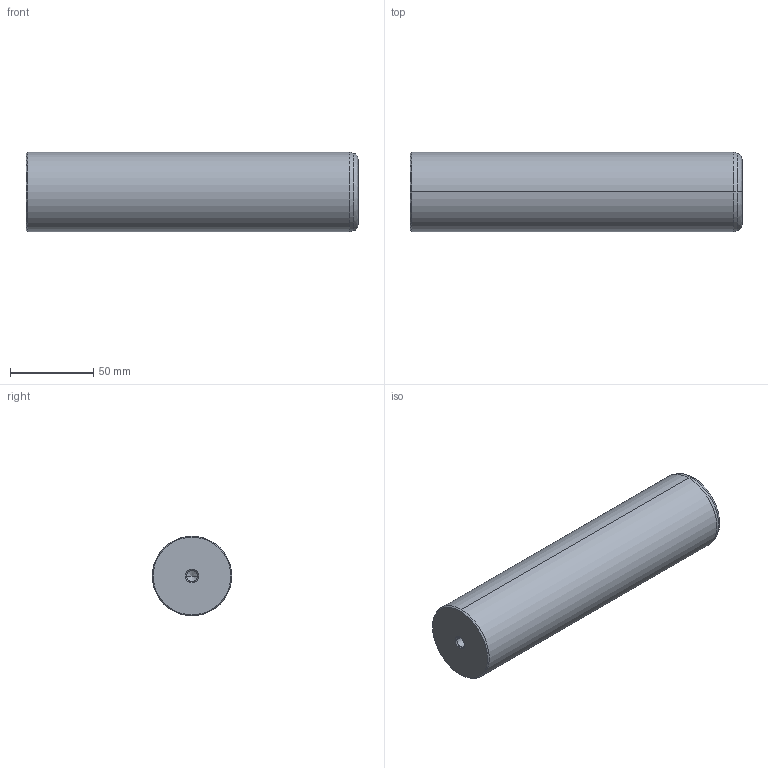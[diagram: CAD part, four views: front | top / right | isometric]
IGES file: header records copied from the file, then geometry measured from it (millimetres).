
Start section: START RECORD GO HERE.
Global section: file name: 720-48x200.igs; native system: DASSAULT SYSTEMES CATIA V5 R20 - www.3ds.com; preprocessor: CATIA Version 5 Release 20 ; author: Utente; organization: NB04-ASUS; date: 20201230.225227; units: millimetre
Bounding box: 200 x 48 x 48 mm (x, y, z)
Surface area: 34386.7 mm2 (no closed solid volume)
Topology: 0 solids, 0 shells, 22 faces, 108 edges, 104 vertices
Faces by surface type: revolution 20, plane 2
